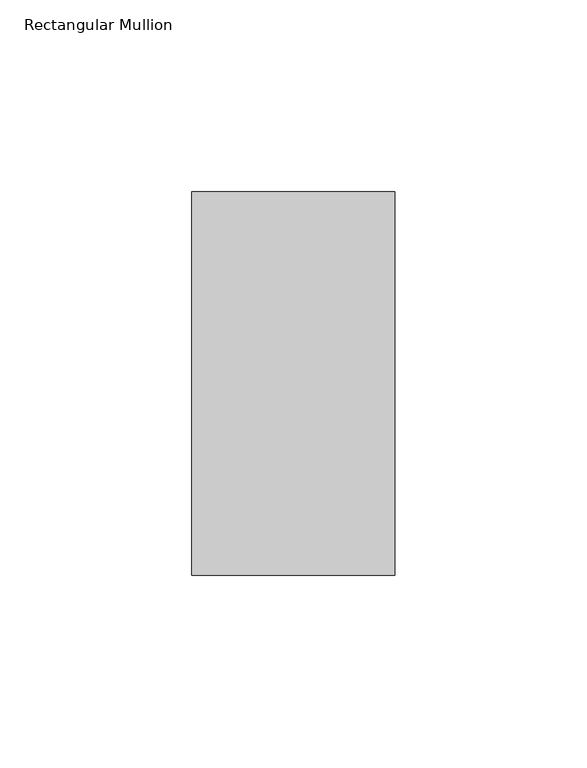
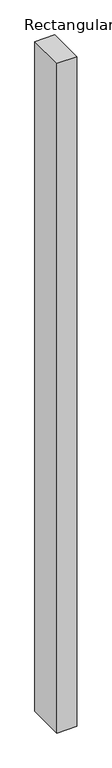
"""IFC4 building model written with IfcOpenShell, lengths in millimetres: member geometry, Rectangular Mullion : IMP219 100mm x 53mm Horizontal."""

from ifc_helpers import new_model, si_unit, frame, origin, place, context, project, spatial, polyline, outline, extrude, source, transform, mapped, element, save


def rectangular_mullion_fe14719c(model_context):
    return source(origin(), model_context, "Body", "SweptSolid", [
        extrude(outline(polyline([(-53.0, -50.0), (-53.0, 50.0), (0.0, 50.0), (0.0, -50.0), (-53.0, -50.0)])), frame((0.0, 0.0, -1872.0), z_axis=(0.0, 0.0, 1.0), x_axis=(1.0, 0.0, 0.0)), (0.0, 0.0, 1.0), 1872.0),
    ])


if __name__ == "__main__":
    model = new_model("IFC4")
    model_context = context("Model", 3, world=origin())
    ifc_project = project(units=[si_unit("LENGTHUNIT", "METRE", prefix="MILLI")], contexts=[model_context])
    site = spatial("IfcSite", under=ifc_project)
    building = spatial("IfcBuilding", under=site)
    placement = place(None, origin())
    rectangular_mullion_shape = rectangular_mullion_fe14719c(model_context)
    element("IfcMember", 1, ObjectType="Rectangular Mullion : IMP219 100mm x 53mm Horizontal", at=placement, inside=building, context=model_context, shape_type="MappedRepresentation", body=[
        mapped(rectangular_mullion_shape, transform((0.0, 0.0, 0.0), x_axis=(1.0, 0.0, 0.0), y_axis=(0.0, 1.0, 0.0), z_axis=(0.0, 0.0, 1.0))),
    ])
    save(model, "model.ifc")
